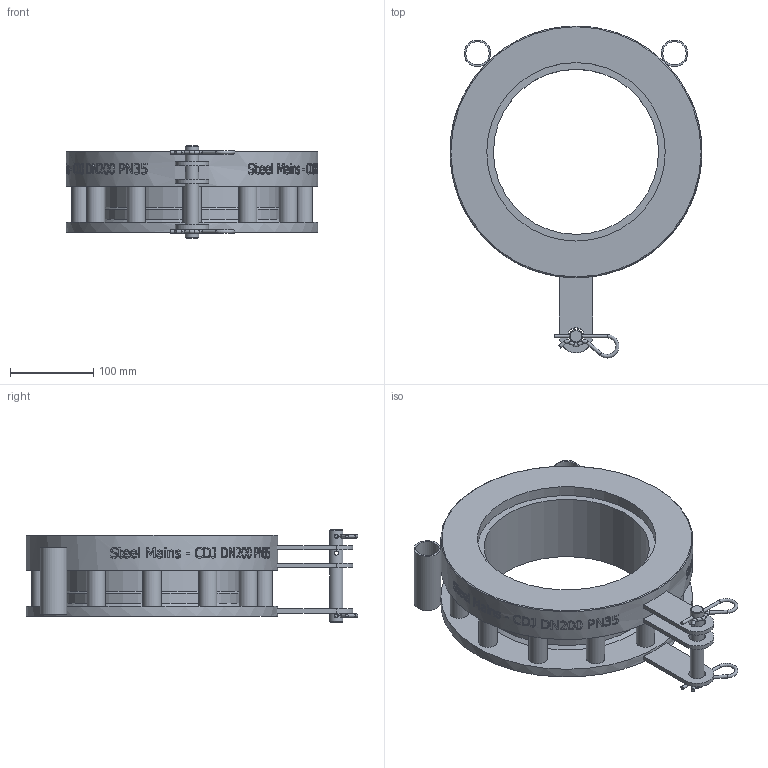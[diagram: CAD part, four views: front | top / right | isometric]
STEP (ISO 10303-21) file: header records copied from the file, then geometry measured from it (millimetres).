
FILE_DESCRIPTION(/* description */ (''),/* implementation_level */ '2;1');
FILE_NAME(/* name */ 'C:\Vault\Designs\Somerton\196\196-29 Models\Marketing Files\SteelMains - CDJ DN200 PN35 - (196-29T rev A).stp',/* time_stamp */ '2025-09-25T16:02:53+10:00',/* author */ ('Sam.Cavallaro'),/* organization */ (''),/* preprocessor_version */ 'ST-DEVELOPER v18.1',/* originating_system */ 'Autodesk Inventor 2021',/* authorisation */ '');
FILE_SCHEMA (('AUTOMOTIVE_DESIGN { 1 0 10303 214 3 1 1 }'));
Length unit declared in the file: millimetre
Products named in the file (1): SPS_ENG-059971
Bounding box: 302 x 398.01 x 111 mm (x, y, z)
Volume: 2613493.3 mm3; surface area: 384572.3 mm2
Topology: 6 solids, 6 shells, 836 faces, 2276 edges, 1518 vertices
Faces by surface type: bspline 410, plane 305, cylinder 108, torus 8, cone 5
Full cylindrical faces by diameter (mm): 4 x10, 5 x3, 16 x1, 20 x3, 22 x12, 28 x2, 32 x2, 198 x1, 210 x1, 214 x2, 302 x1
Entity records: 37177 total; most frequent: CARTESIAN_POINT 18195, ORIENTED_EDGE 4558, DIRECTION 2684, EDGE_CURVE 2279, VERTEX_POINT 1521, LINE 1048, VECTOR 1048, EDGE_LOOP 944
